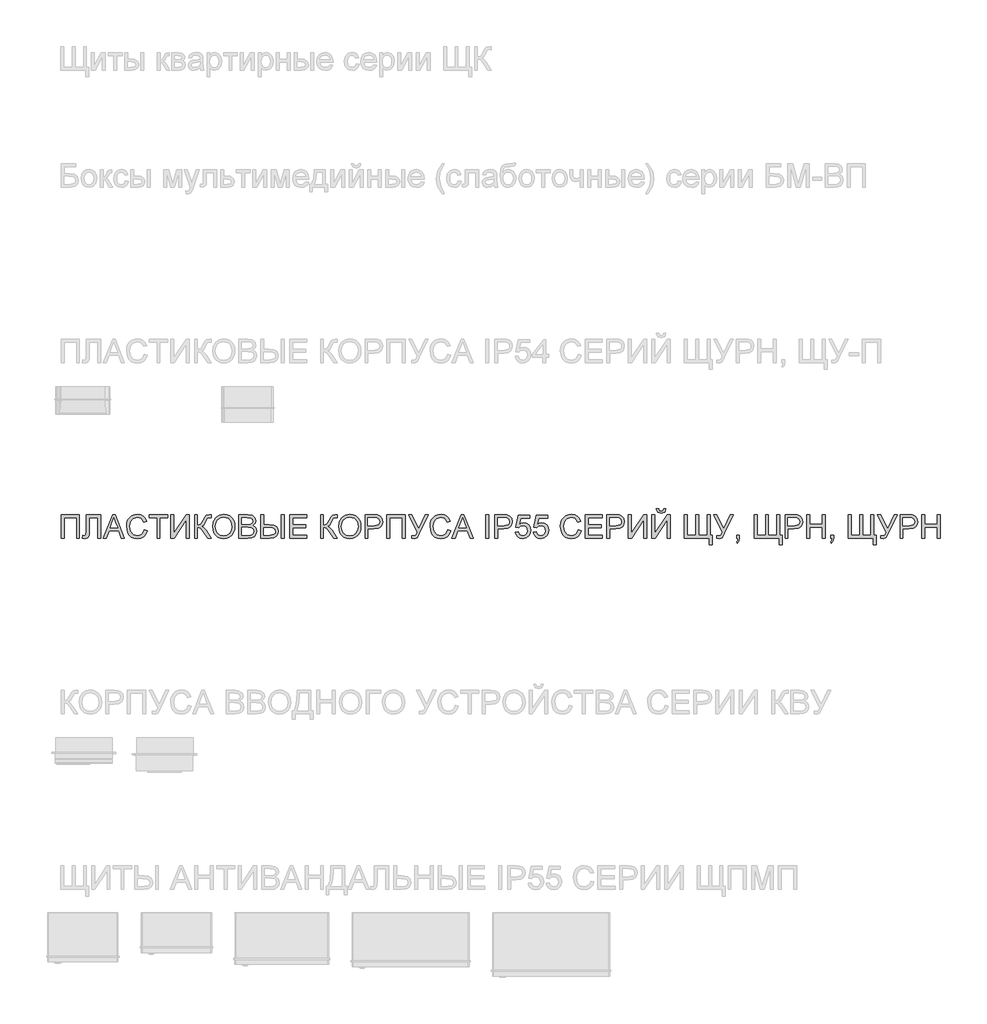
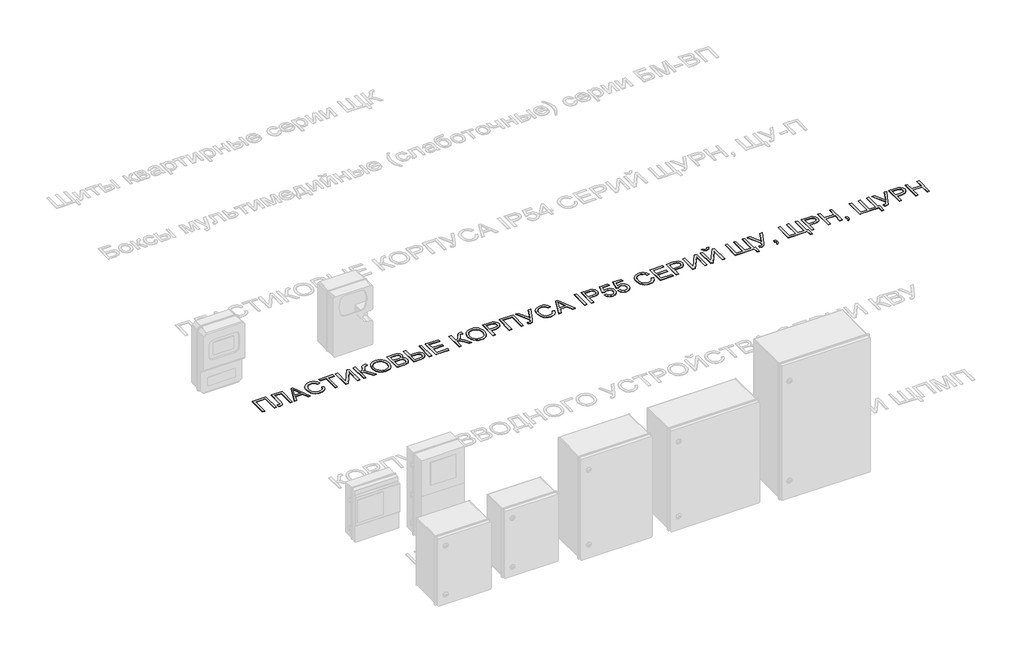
# One storey, part 16 of 25: 1 proxy.
"""IFC4 building model written with IfcOpenShell, lengths in millimetres."""

import ifcopenshell
import ifcopenshell.guid

model = None  # the IFC model being written
_history = None  # IfcOwnerHistory: only IFC2X3 demands one
_inside = {}  # id of a spatial element -> (the spatial element, [elements in it])
_under = {}  # id of a project, library or spatial element -> (it, [spatial elements below it])
_declared = {}  # id of a project -> (the project, [libraries it declares])
_typed = {}  # id of a type object -> (the type object, [elements of that type])
_made_of = {}  # id of a material, layer set ... -> (it, [elements and type objects made of it])


def new_model(schema):
    """Start an empty IFC model of exactly this schema.

    Asked for "IFC4X3", IfcOpenShell would pick the latest addendum, in which some entities
    have other attributes; the version numbers below select the first issue.
    IFC2X3 requires an IfcOwnerHistory on every rooted entity: one is made here for all.
    """
    global model, _history
    if schema == "IFC4X3":
        model = ifcopenshell.file(schema_version=(4, 3, 0, 0))
    else:
        model = ifcopenshell.file(schema=schema)
    _inside.clear()
    _under.clear()
    _declared.clear()
    _typed.clear()
    _made_of.clear()
    _history = None
    if model.schema == "IFC2X3":
        org = make("IfcOrganization", Name="unknown")
        user = make(
            "IfcPersonAndOrganization",
            ThePerson=make("IfcPerson", FamilyName="unknown"),
            TheOrganization=org,
        )
        app = make(
            "IfcApplication",
            ApplicationDeveloper=org,
            Version="unknown",
            ApplicationFullName="unknown",
            ApplicationIdentifier="unknown",
        )
        _history = make(
            "IfcOwnerHistory",
            OwningUser=user,
            OwningApplication=app,
            ChangeAction="ADDED",
            CreationDate=0,
        )
    return model


def make(cls, **values):
    """One entity of the class cls with the attributes given. An attribute that is None is left unset."""
    return model.create_entity(
        cls, **{name: value for name, value in values.items() if value is not None}
    )


def rooted(cls, **values):
    """An entity with a GlobalId (a new one), such as an element, a storey or a relation."""
    return make(cls, GlobalId=ifcopenshell.guid.new(), OwnerHistory=_history, **values)


def si_unit(unit_type, name, prefix=None):
    """IfcSIUnit, for example si_unit("LENGTHUNIT", "METRE", prefix="MILLI")."""
    return make("IfcSIUnit", UnitType=unit_type, Prefix=prefix, Name=name)


def assignment(units):
    """IfcUnitAssignment: the units of a project."""
    return None if units is None else make("IfcUnitAssignment", Units=units)


def point(xyz):
    """IfcCartesianPoint."""
    return None if xyz is None else make("IfcCartesianPoint", Coordinates=xyz)


def direction(xyz):
    """IfcDirection."""
    return None if xyz is None else make("IfcDirection", DirectionRatios=xyz)


def frame(location, z_axis=None, x_axis=None):
    """IfcAxis2Placement3D, a coordinate frame: its origin and axes. An axis left out is left unset."""
    return make(
        "IfcAxis2Placement3D",
        Location=point(location),
        Axis=direction(z_axis),
        RefDirection=direction(x_axis),
    )


def origin():
    """The frame at (0, 0, 0) with its axes left unset."""
    return frame((0.0, 0.0, 0.0))


def place(relative_to, where):
    """IfcLocalPlacement: puts the frame where relative to a parent placement (None: the world)."""
    return make(
        "IfcLocalPlacement", PlacementRelTo=relative_to, RelativePlacement=where
    )


def context(
    kind, dimensions, precision=None, world=None, true_north=None, identifier=None
):
    """IfcGeometricRepresentationContext, for example the 3D "Model" context."""
    return make(
        "IfcGeometricRepresentationContext",
        ContextIdentifier=identifier,
        ContextType=kind,
        CoordinateSpaceDimension=dimensions,
        Precision=precision,
        WorldCoordinateSystem=world,
        TrueNorth=true_north,
    )


def project(units=None, contexts=None):
    """IfcProject with its units and contexts."""
    return rooted(
        "IfcProject",
        Name="project",
        RepresentationContexts=contexts,
        UnitsInContext=assignment(units),
    )


def spatial(cls, under=None, at=None, **own):
    """A site, building, storey or space (cls), placed at a placement, below another one or the project."""
    s = rooted(cls, ObjectPlacement=at, **own)
    if under is not None:
        _under.setdefault(under.id(), (under, []))[1].append(s)
    return s


def polyline(points):
    """IfcPolyline through the points."""
    return make("IfcPolyline", Points=[point(p) for p in points])


def outline(outer, holes=None, kind="AREA"):
    """IfcArbitraryClosedProfileDef: a profile drawn as a closed curve; with holes, ...WithVoids."""
    if holes is None:
        return make("IfcArbitraryClosedProfileDef", ProfileType=kind, OuterCurve=outer)
    return make(
        "IfcArbitraryProfileDefWithVoids",
        ProfileType=kind,
        OuterCurve=outer,
        InnerCurves=holes,
    )


def extrude(swept, where, along, depth):
    """IfcExtrudedAreaSolid: the profile swept, set in the frame where, extruded along a direction by depth."""
    return make(
        "IfcExtrudedAreaSolid",
        SweptArea=swept,
        Position=where,
        ExtrudedDirection=direction(along),
        Depth=depth,
    )


def shape(context_of_items, identifier, shape_type, items):
    """IfcShapeRepresentation: the items that make up one representation, for example the "Body"."""
    return make(
        "IfcShapeRepresentation",
        ContextOfItems=context_of_items,
        RepresentationIdentifier=identifier,
        RepresentationType=shape_type,
        Items=items,
    )


def made_of(thing, what):
    """Note that an element or type object is made of a material, layer set ...; save() writes the relation."""
    if what is not None:
        _made_of.setdefault(what.id(), (what, []))[1].append(thing)
    return thing


def element(
    cls,
    number,
    at=None,
    inside=None,
    cuts=None,
    type_object=None,
    material=None,
    context=None,
    identifier="Body",
    shape_type=None,
    held_by="IfcProductDefinitionShape",
    body=None,
    shapes=None,
    **own,
):
    """One element of the class cls, such as IfcWall. Its Tag is "e" and its number.

    at: its placement. inside: the storey or other place that contains it. cuts: it is an
    opening in that element (IfcRelVoidsElement). A single representation is given by context,
    identifier, shape_type and body (its items); several are given by shapes. held_by: the class
    of the entity that holds the representations. save() writes the other relations.
    """
    e = rooted(cls, Tag="e%d" % number, ObjectPlacement=at, **own)
    if body is not None:
        shapes = [shape(context, identifier, shape_type, body)]
    if shapes is not None:
        e.Representation = make(held_by, Representations=shapes)
    if inside is not None:
        _inside.setdefault(inside.id(), (inside, []))[1].append(e)
    if cuts is not None:
        rooted(
            "IfcRelVoidsElement", RelatingBuildingElement=cuts, RelatedOpeningElement=e
        )
    if type_object is not None:
        _typed.setdefault(type_object.id(), (type_object, []))[1].append(e)
    return made_of(e, material)


def aggregate(whole, parts):
    """IfcRelAggregates: a whole, such as a stair, and the parts it consists of."""
    return rooted("IfcRelAggregates", RelatingObject=whole, RelatedObjects=parts)


def save(model, path):
    """Write the relations noted so far, then the file.

    IfcRelAggregates (storeys below a building ...), IfcRelContainedInSpatialStructure (elements
    in a storey), IfcRelDefinesByType, IfcRelAssociatesMaterial and IfcRelDeclares: one each for
    every whole, place, type object, material and project.
    """
    for whole, parts in _under.values():
        aggregate(whole, parts)
    for where, things in _inside.values():
        rooted(
            "IfcRelContainedInSpatialStructure",
            RelatedElements=things,
            RelatingStructure=where,
        )
    for kind, things in _typed.values():
        rooted("IfcRelDefinesByType", RelatedObjects=things, RelatingType=kind)
    for what, things in _made_of.values():
        rooted("IfcRelAssociatesMaterial", RelatedObjects=things, RelatingMaterial=what)
    for by, libraries in _declared.values():
        rooted("IfcRelDeclares", RelatingContext=by, RelatedDefinitions=libraries)
    model.write(path)


model = new_model("IFC4")

# Units and contexts
model_context = context("Model", 3, world=origin())
ifc_project = project(units=[si_unit("LENGTHUNIT", "METRE", prefix="MILLI")], contexts=[model_context])

# Site, building, storey
site = spatial("IfcSite", under=ifc_project)
building = spatial("IfcBuilding", under=site)
storey = spatial("IfcBuildingStorey", under=building, Name="Этаж 01", Elevation=0.0)

# Proxy
placement = place(None, origin())
element("IfcBuildingElementProxy", 1, Name="Надпись на модели 1", ObjectType="Надпись на модели 1", at=placement, inside=storey, context=model_context, shape_type="SweptSolid", body=[
    extrude(outline(polyline([(-19038.1210387, 12136.6915941), (-18959.6395464, 12136.6915941), (-18959.6395464, 12036.235284), (-18972.1965852, 12036.235284), (-18972.1965852, 12124.1345554), (-19025.564, 12124.1345554), (-19025.564, 12036.235284), (-19038.1210387, 12036.235284), (-19038.1210387, 12136.6915941)])), frame((0.0, 0.0, 40.0), z_axis=(0.0, 0.0, 1.0), x_axis=(1.0, 0.0, 0.0)), (0.0, 0.0, 1.0), 2.0),
    extrude(outline(polyline([(-18929.8165793, 12136.6915941), (-18868.6010154, 12136.6915941), (-18868.6010154, 12036.235284), (-18881.1580541, 12036.235284), (-18881.1580541, 12124.1345554), (-18917.2595406, 12124.1345554), (-18917.2595406, 12072.8763307), (-18918.7188058, 12050.0063333), (-18924.8379097, 12038.7000934), (-18936.6591845, 12034.6656541), (-18947.0825077, 12036.235284), (-18945.5128778, 12048.7923228), (-18939.5041386, 12047.2226929), (-18932.2323378, 12050.5949445), (-18929.8165793, 12066.475184), (-18929.8165793, 12136.6915941)])), frame((0.0, 0.0, 40.0), z_axis=(0.0, 0.0, 1.0), x_axis=(1.0, 0.0, 0.0)), (0.0, 0.0, 1.0), 2.0),
    extrude(outline(polyline([(-18858.324845, 12036.235284), (-18818.2257075, 12136.6915941), (-18807.5326042, 12136.6915941), (-18767.4334667, 12036.235284), (-18780.701744, 12036.235284), (-18792.2041877, 12067.6278809), (-18833.5786494, 12067.6278809), (-18845.0565677, 12036.235284), (-18858.324845, 12036.235284)]), holes=[polyline([(-18828.9678617, 12080.1849197), (-18796.7904499, 12080.1849197), (-18805.840347, 12104.8820643), (-18812.8791558, 12124.1345554), (-18819.1331497, 12107.0403053), (-18828.9678617, 12080.1849197)])]), frame((0.0, 0.0, 40.0), z_axis=(0.0, 0.0, 1.0), x_axis=(1.0, 0.0, 0.0)), (0.0, 0.0, 1.0), 2.0),
    extrude(outline(polyline([(-18683.3846935, 12071.944363), (-18670.8276547, 12068.7070014), (-18676.6217962, 12054.0744951), (-18685.7146128, 12043.3844574), (-18697.6585149, 12036.845355), (-18712.0059127, 12034.6656541), (-18726.5709741, 12036.3149918), (-18738.1377971, 12041.2630046), (-18747.0037532, 12049.3380144), (-18753.4662136, 12060.3683429), (-18758.7269261, 12087.2237285), (-18757.2400697, 12101.8715633), (-18752.7795005, 12114.5205726), (-18745.5782105, 12124.7691518), (-18735.8691915, 12132.2156965), (-18724.354485, 12136.7498421), (-18711.7361326, 12138.261224), (-18697.9681489, 12136.305318), (-18686.5852669, 12130.4376002), (-18677.9431057, 12121.0198211), (-18672.3972846, 12108.4137314), (-18684.9543234, 12105.4216246), (-18695.2550192, 12120.8604056), (-18712.2266419, 12125.7041852), (-18731.8715405, 12120.3331081), (-18742.969314, 12105.9121339), (-18746.1698874, 12087.248254), (-18742.3807028, 12065.6167927), (-18730.5839535, 12051.7966924), (-18713.2567115, 12047.2226929), (-18702.7751403, 12048.78006), (-18694.0410086, 12053.4521614), (-18687.4467239, 12061.189946), (-18683.3846935, 12071.944363)])), frame((0.0, 0.0, 40.0), z_axis=(0.0, 0.0, 1.0), x_axis=(1.0, 0.0, 0.0)), (0.0, 0.0, 1.0), 2.0),
    extrude(outline(polyline([(-18628.4476489, 12036.235284), (-18628.4476489, 12124.1345554), (-18661.4098757, 12124.1345554), (-18661.4098757, 12136.6915941), (-18582.9283834, 12136.6915941), (-18582.9283834, 12124.1345554), (-18615.8906101, 12124.1345554), (-18615.8906101, 12036.235284), (-18628.4476489, 12036.235284)])), frame((0.0, 0.0, 40.0), z_axis=(0.0, 0.0, 1.0), x_axis=(1.0, 0.0, 0.0)), (0.0, 0.0, 1.0), 2.0),
    extrude(outline(polyline([(-18568.8017147, 12136.6915941), (-18556.244676, 12136.6915941), (-18556.244676, 12057.1309813), (-18503.6620761, 12136.6915941), (-18490.3202224, 12136.6915941), (-18490.3202224, 12036.235284), (-18502.8772612, 12036.235284), (-18502.8772612, 12115.5751676), (-18555.3372337, 12036.235284), (-18568.8017147, 12036.235284), (-18568.8017147, 12136.6915941)])), frame((0.0, 0.0, 40.0), z_axis=(0.0, 0.0, 1.0), x_axis=(1.0, 0.0, 0.0)), (0.0, 0.0, 1.0), 2.0),
    extrude(outline(polyline([(-18468.3454046, 12136.6915941), (-18455.7883658, 12136.6915941), (-18455.7883658, 12092.7419585), (-18441.7475363, 12096.0651591), (-18431.9496125, 12112.8773663), (-18425.0211683, 12126.9181958), (-18417.1730191, 12133.8711655), (-18405.9526182, 12136.6915941), (-18397.7120615, 12136.5444413), (-18397.7120615, 12123.9874026), (-18400.4834392, 12124.060979), (-18403.2548169, 12124.1345554), (-18413.0650035, 12121.117923), (-18420.5207452, 12108.1930022), (-18429.4112268, 12092.4476529), (-18438.0809791, 12087.248254), (-18428.3872886, 12081.5706085), (-18418.828488, 12069.737071), (-18397.7120615, 12036.235284), (-18412.2801885, 12036.235284), (-18430.134728, 12064.5376722), (-18442.7040295, 12079.3142656), (-18455.7883658, 12083.3241794), (-18455.7883658, 12036.235284), (-18468.3454046, 12036.235284), (-18468.3454046, 12136.6915941)])), frame((0.0, 0.0, 40.0), z_axis=(0.0, 0.0, 1.0), x_axis=(1.0, 0.0, 0.0)), (0.0, 0.0, 1.0), 2.0),
    extrude(outline(polyline([(-18391.4335421, 12085.1390639), (-18388.085816, 12107.353005), (-18378.0426375, 12124.1590808), (-18362.7080897, 12134.7356882), (-18343.4862554, 12138.261224), (-18330.3099486, 12136.605755), (-18318.4948052, 12131.6393481), (-18308.6846187, 12123.7114911), (-18301.5231825, 12113.1716719), (-18297.1453868, 12100.528794), (-18295.6861215, 12086.2917608), (-18297.2220289, 12071.8646552), (-18301.8297508, 12059.0439677), (-18309.2548358, 12048.4857544), (-18319.242832, 12040.8460717), (-18330.9568078, 12036.2107585), (-18343.5598318, 12034.6656541), (-18356.9384737, 12036.3732397), (-18368.8210622, 12041.4959965), (-18378.6067232, 12049.5710063), (-18385.694583, 12060.1353509), (-18391.4335421, 12085.1390639)]), holes=[polyline([(-18378.8765034, 12085.0164366), (-18376.3657088, 12069.301744), (-18368.8333249, 12057.327185), (-18357.5117565, 12049.7488159), (-18343.6334082, 12047.2226929), (-18329.5527249, 12049.7733414), (-18318.2127624, 12057.4252869), (-18310.7355608, 12069.7677279), (-18308.2431603, 12086.3898627), (-18312.5105914, 12107.1138817), (-18324.9817911, 12120.8358802), (-18343.412679, 12125.7041852), (-18356.9200796, 12123.3589375), (-18368.4041292, 12116.3231943), (-18376.2584098, 12103.8060095), (-18378.8765034, 12085.0164366)])]), frame((0.0, 0.0, 40.0), z_axis=(0.0, 0.0, 1.0), x_axis=(1.0, 0.0, 0.0)), (0.0, 0.0, 1.0), 2.0),
    extrude(outline(polyline([(-18278.4201932, 12036.235284), (-18278.4201932, 12136.6915941), (-18240.0868893, 12136.6915941), (-18221.3126448, 12133.7362754), (-18210.227134, 12124.6495902), (-18206.2172203, 12111.7982458), (-18209.5894719, 12100.0628102), (-18219.7798032, 12091.1723286), (-18207.4067054, 12081.8036005), (-18203.0779606, 12066.1808784), (-18206.0332793, 12052.6796092), (-18213.354131, 12043.0656264), (-18224.2802263, 12037.9643294), (-18240.3811949, 12036.235284), (-18278.4201932, 12036.235284)]), holes=[polyline([(-18265.8631545, 12095.8812181), (-18242.9318434, 12095.8812181), (-18229.5409388, 12096.9603387), (-18221.4843231, 12101.6079145), (-18218.7742591, 12109.7871576), (-18221.3003821, 12117.9786633), (-18228.5353947, 12122.8224429), (-18244.6731515, 12124.1345554), (-18265.8631545, 12124.1345554), (-18265.8631545, 12095.8812181)]), polyline([(-18265.8631545, 12048.7923228), (-18240.1114148, 12048.7923228), (-18230.7917376, 12049.2828321), (-18222.9068001, 12052.0174216), (-18217.6828758, 12057.5969652), (-18215.6349994, 12066.0582511), (-18218.0384951, 12075.8193867), (-18225.8253306, 12081.6441849), (-18241.3376881, 12083.3241794), (-18265.8631545, 12083.3241794), (-18265.8631545, 12048.7923228)])]), frame((0.0, 0.0, 40.0), z_axis=(0.0, 0.0, 1.0), x_axis=(1.0, 0.0, 0.0)), (0.0, 0.0, 1.0), 2.0),
    extrude(outline(polyline([(-18097.9127609, 12136.6915941), (-18085.3557222, 12136.6915941), (-18085.3557222, 12036.235284), (-18097.9127609, 12036.235284), (-18097.9127609, 12136.6915941)])), frame((0.0, 0.0, 40.0), z_axis=(0.0, 0.0, 1.0), x_axis=(1.0, 0.0, 0.0)), (0.0, 0.0, 1.0), 2.0),
    extrude(outline(polyline([(-18185.8120323, 12136.6915941), (-18173.2549935, 12136.6915941), (-18173.2549935, 12094.3115883), (-18149.1219346, 12094.3115883), (-18129.4831675, 12092.1165591), (-18117.9500669, 12085.5314713), (-18112.3398665, 12076.1627432), (-18110.4697997, 12065.6167927), (-18112.4471654, 12054.6017926), (-18118.3792626, 12045.0521891), (-18129.6824369, 12038.4395103), (-18147.773034, 12036.235284), (-18185.8120323, 12036.235284), (-18185.8120323, 12136.6915941)]), holes=[polyline([(-18173.2549935, 12048.7923228), (-18147.8956613, 12048.7923228), (-18128.9252131, 12052.777711), (-18124.5014321, 12057.9617815), (-18123.0268385, 12065.5432163), (-18126.5952938, 12075.5250811), (-18135.8168692, 12080.6509035), (-18154.6892155, 12081.7545495), (-18173.2549935, 12081.7545495), (-18173.2549935, 12048.7923228)])]), frame((0.0, 0.0, 40.0), z_axis=(0.0, 0.0, 1.0), x_axis=(1.0, 0.0, 0.0)), (0.0, 0.0, 1.0), 2.0),
    extrude(outline(polyline([(-18061.8112745, 12036.235284), (-18061.8112745, 12136.6915941), (-17989.6083015, 12136.6915941), (-17989.6083015, 12124.1345554), (-18049.2542357, 12124.1345554), (-18049.2542357, 12094.3115883), (-17992.7475612, 12094.3115883), (-17992.7475612, 12081.7545495), (-18049.2542357, 12081.7545495), (-18049.2542357, 12048.7923228), (-17988.0386717, 12048.7923228), (-17988.0386717, 12036.235284), (-18061.8112745, 12036.235284)])), frame((0.0, 0.0, 40.0), z_axis=(0.0, 0.0, 1.0), x_axis=(1.0, 0.0, 0.0)), (0.0, 0.0, 1.0), 2.0),
    extrude(outline(polyline([(-17929.9623674, 12136.6915941), (-17917.4053286, 12136.6915941), (-17917.4053286, 12092.7419585), (-17903.3644991, 12096.0651591), (-17893.5665753, 12112.8773663), (-17886.6381311, 12126.9181958), (-17878.7899819, 12133.8711655), (-17867.569581, 12136.6915941), (-17859.3290243, 12136.5444413), (-17859.3290243, 12123.9874026), (-17862.100402, 12124.060979), (-17864.8717797, 12124.1345554), (-17874.6819662, 12121.117923), (-17882.137708, 12108.1930022), (-17891.0281896, 12092.4476529), (-17899.6979419, 12087.248254), (-17890.0042513, 12081.5706085), (-17880.4454508, 12069.737071), (-17859.3290243, 12036.235284), (-17873.8971513, 12036.235284), (-17891.7516908, 12064.5376722), (-17904.3209923, 12079.3142656), (-17917.4053286, 12083.3241794), (-17917.4053286, 12036.235284), (-17929.9623674, 12036.235284), (-17929.9623674, 12136.6915941)])), frame((0.0, 0.0, 40.0), z_axis=(0.0, 0.0, 1.0), x_axis=(1.0, 0.0, 0.0)), (0.0, 0.0, 1.0), 2.0),
    extrude(outline(polyline([(-17853.0505049, 12085.1390639), (-17849.7027788, 12107.353005), (-17839.6596003, 12124.1590808), (-17824.3250525, 12134.7356882), (-17805.1032182, 12138.261224), (-17791.9269114, 12136.605755), (-17780.111768, 12131.6393481), (-17770.3015815, 12123.7114911), (-17763.1401453, 12113.1716719), (-17758.7623496, 12100.528794), (-17757.3030843, 12086.2917608), (-17758.8389917, 12071.8646552), (-17763.4467136, 12059.0439677), (-17770.8717986, 12048.4857544), (-17780.8597947, 12040.8460717), (-17792.5737706, 12036.2107585), (-17805.1767946, 12034.6656541), (-17818.5554365, 12036.3732397), (-17830.438025, 12041.4959965), (-17840.223686, 12049.5710063), (-17847.3115458, 12060.1353509), (-17853.0505049, 12085.1390639)]), holes=[polyline([(-17840.4934662, 12085.0164366), (-17837.9826715, 12069.301744), (-17830.4502877, 12057.327185), (-17819.1287193, 12049.7488159), (-17805.250371, 12047.2226929), (-17791.1696877, 12049.7733414), (-17779.8297252, 12057.4252869), (-17772.3525236, 12069.7677279), (-17769.8601231, 12086.3898627), (-17774.1275542, 12107.1138817), (-17786.5987539, 12120.8358802), (-17805.0296418, 12125.7041852), (-17818.5370424, 12123.3589375), (-17830.021092, 12116.3231943), (-17837.8753726, 12103.8060095), (-17840.4934662, 12085.0164366)])]), frame((0.0, 0.0, 40.0), z_axis=(0.0, 0.0, 1.0), x_axis=(1.0, 0.0, 0.0)), (0.0, 0.0, 1.0), 2.0),
    extrude(outline(polyline([(-17740.037156, 12036.235284), (-17740.037156, 12136.6915941), (-17702.8074981, 12136.6915941), (-17687.7979127, 12135.735101), (-17675.5964932, 12131.0384742), (-17667.6870303, 12121.3263895), (-17664.6949234, 12107.6289165), (-17666.7152087, 12095.7892476), (-17672.7760646, 12085.9238788), (-17684.1098957, 12079.2652147), (-17701.9491068, 12077.04566), (-17727.4801172, 12077.04566), (-17727.4801172, 12036.235284), (-17740.037156, 12036.235284)]), holes=[polyline([(-17727.4801172, 12089.6026988), (-17701.2133428, 12089.6026988), (-17682.7211412, 12094.2134864), (-17678.6192569, 12099.7623732), (-17677.2519622, 12107.1874581), (-17680.477061, 12117.5862559), (-17688.9506096, 12123.2761641), (-17701.5076484, 12124.1345554), (-17727.4801172, 12124.1345554), (-17727.4801172, 12089.6026988)])]), frame((0.0, 0.0, 40.0), z_axis=(0.0, 0.0, 1.0), x_axis=(1.0, 0.0, 0.0)), (0.0, 0.0, 1.0), 2.0),
    extrude(outline(polyline([(-17647.4289951, 12136.6915941), (-17568.9475028, 12136.6915941), (-17568.9475028, 12036.235284), (-17581.5045416, 12036.235284), (-17581.5045416, 12124.1345554), (-17634.8719563, 12124.1345554), (-17634.8719563, 12036.235284), (-17647.4289951, 12036.235284), (-17647.4289951, 12136.6915941)])), frame((0.0, 0.0, 40.0), z_axis=(0.0, 0.0, 1.0), x_axis=(1.0, 0.0, 0.0)), (0.0, 0.0, 1.0), 2.0),
    extrude(outline(polyline([(-17554.0360193, 12136.6915941), (-17540.1300798, 12136.6915941), (-17510.0863836, 12077.1928128), (-17483.0593196, 12136.6915941), (-17469.2760076, 12136.6915941), (-17507.4131077, 12058.430831), (-17517.78738, 12039.2028654), (-17529.3879256, 12034.6656541), (-17540.6941656, 12036.235284), (-17540.6941656, 12047.2226929), (-17530.8104026, 12047.2226929), (-17523.4772882, 12050.0185961), (-17516.683734, 12062.7473131), (-17554.0360193, 12136.6915941)])), frame((0.0, 0.0, 40.0), z_axis=(0.0, 0.0, 1.0), x_axis=(1.0, 0.0, 0.0)), (0.0, 0.0, 1.0), 2.0),
    extrude(outline(polyline([(-17386.8704406, 12071.944363), (-17374.3134019, 12068.7070014), (-17380.1075433, 12054.0744951), (-17389.2003599, 12043.3844574), (-17401.1442621, 12036.845355), (-17415.4916599, 12034.6656541), (-17430.0567212, 12036.3149918), (-17441.6235443, 12041.2630046), (-17450.4895003, 12049.3380144), (-17456.9519607, 12060.3683429), (-17462.2126733, 12087.2237285), (-17460.7258169, 12101.8715633), (-17456.2652477, 12114.5205726), (-17449.0639576, 12124.7691518), (-17439.3549386, 12132.2156965), (-17427.8402322, 12136.7498421), (-17415.2218797, 12138.261224), (-17401.4538961, 12136.305318), (-17390.071014, 12130.4376002), (-17381.4288528, 12121.0198211), (-17375.8830317, 12108.4137314), (-17388.4400705, 12105.4216246), (-17398.7407664, 12120.8604056), (-17415.7123891, 12125.7041852), (-17435.3572876, 12120.3331081), (-17446.4550611, 12105.9121339), (-17449.6556345, 12087.248254), (-17445.8664499, 12065.6167927), (-17434.0697006, 12051.7966924), (-17416.7424587, 12047.2226929), (-17406.2608875, 12048.78006), (-17397.5267558, 12053.4521614), (-17390.932471, 12061.189946), (-17386.8704406, 12071.944363)])), frame((0.0, 0.0, 40.0), z_axis=(0.0, 0.0, 1.0), x_axis=(1.0, 0.0, 0.0)), (0.0, 0.0, 1.0), 2.0),
    extrude(outline(polyline([(-17368.746121, 12036.235284), (-17328.6469835, 12136.6915941), (-17317.9538802, 12136.6915941), (-17277.8547427, 12036.235284), (-17291.12302, 12036.235284), (-17302.6254637, 12067.6278809), (-17343.9999255, 12067.6278809), (-17355.4778437, 12036.235284), (-17368.746121, 12036.235284)]), holes=[polyline([(-17339.3891378, 12080.1849197), (-17307.211726, 12080.1849197), (-17316.261623, 12104.8820643), (-17323.3004319, 12124.1345554), (-17329.5544258, 12107.0403053), (-17339.3891378, 12080.1849197)])]), frame((0.0, 0.0, 40.0), z_axis=(0.0, 0.0, 1.0), x_axis=(1.0, 0.0, 0.0)), (0.0, 0.0, 1.0), 2.0),
    extrude(outline(polyline([(-17223.6289367, 12036.235284), (-17223.6289367, 12136.6915941), (-17211.0718979, 12136.6915941), (-17211.0718979, 12036.235284), (-17223.6289367, 12036.235284)])), frame((0.0, 0.0, 40.0), z_axis=(0.0, 0.0, 1.0), x_axis=(1.0, 0.0, 0.0)), (0.0, 0.0, 1.0), 2.0),
    extrude(outline(polyline([(-17185.9578203, 12036.235284), (-17185.9578203, 12136.6915941), (-17148.7281624, 12136.6915941), (-17133.718577, 12135.735101), (-17121.5171575, 12131.0384742), (-17113.6076946, 12121.3263895), (-17110.6155877, 12107.6289165), (-17112.635873, 12095.7892476), (-17118.6967289, 12085.9238788), (-17130.03056, 12079.2652147), (-17147.8697711, 12077.04566), (-17173.4007816, 12077.04566), (-17173.4007816, 12036.235284), (-17185.9578203, 12036.235284)]), holes=[polyline([(-17173.4007816, 12089.6026988), (-17147.1340071, 12089.6026988), (-17128.6418055, 12094.2134864), (-17124.5399212, 12099.7623732), (-17123.1726265, 12107.1874581), (-17126.3977253, 12117.5862559), (-17134.8712739, 12123.2761641), (-17147.4283127, 12124.1345554), (-17173.4007816, 12124.1345554), (-17173.4007816, 12089.6026988)])]), frame((0.0, 0.0, 40.0), z_axis=(0.0, 0.0, 1.0), x_axis=(1.0, 0.0, 0.0)), (0.0, 0.0, 1.0), 2.0),
    extrude(outline(polyline([(-17098.058549, 12062.9189914), (-17085.5015102, 12064.4886212), (-17079.1739399, 12051.5514377), (-17066.0528154, 12047.2226929), (-17057.0519692, 12048.7279434), (-17050.307466, 12053.2436949), (-17046.0952171, 12060.2487812), (-17044.6911342, 12069.2220362), (-17049.9518467, 12084.1335198), (-17056.5583942, 12088.235404), (-17065.8566117, 12089.6026988), (-17076.8808088, 12087.4199323), (-17083.9318803, 12081.7545495), (-17096.4889191, 12083.3241794), (-17085.5015102, 12135.1219643), (-17036.842985, 12135.1219643), (-17036.842985, 12122.5649255), (-17075.3479671, 12122.5649255), (-17080.7190443, 12094.9001995), (-17071.7488549, 12100.344853), (-17062.34947, 12102.1597375), (-17050.6171, 12099.909526), (-17040.8774242, 12093.1588914), (-17034.3199276, 12082.8704582), (-17032.1340954, 12070.0068512), (-17034.1022641, 12057.4498124), (-17040.0067701, 12046.7076581), (-17051.3130101, 12037.6761551), (-17066.1018663, 12034.6656541), (-17078.4351102, 12036.6001003), (-17088.2606252, 12042.4034388), (-17094.9959314, 12051.4012192), (-17098.058549, 12062.9189914)])), frame((0.0, 0.0, 40.0), z_axis=(0.0, 0.0, 1.0), x_axis=(1.0, 0.0, 0.0)), (0.0, 0.0, 1.0), 2.0),
    extrude(outline(polyline([(-17021.1466865, 12062.9189914), (-17008.5896477, 12064.4886212), (-17002.2620774, 12051.5514377), (-16989.1409529, 12047.2226929), (-16980.1401068, 12048.7279434), (-16973.3956035, 12053.2436949), (-16969.1833547, 12060.2487812), (-16967.7792717, 12069.2220362), (-16973.0399843, 12084.1335198), (-16979.6465318, 12088.235404), (-16988.9447492, 12089.6026988), (-16999.9689463, 12087.4199323), (-17007.0200179, 12081.7545495), (-17019.5770567, 12083.3241794), (-17008.5896477, 12135.1219643), (-16959.9311225, 12135.1219643), (-16959.9311225, 12122.5649255), (-16998.4361047, 12122.5649255), (-17003.8071818, 12094.9001995), (-16994.8369925, 12100.344853), (-16985.4376075, 12102.1597375), (-16973.7052375, 12099.909526), (-16963.9655617, 12093.1588914), (-16957.4080652, 12082.8704582), (-16955.222233, 12070.0068512), (-16957.1904016, 12057.4498124), (-16963.0949077, 12046.7076581), (-16974.4011477, 12037.6761551), (-16989.1900039, 12034.6656541), (-17001.5232477, 12036.6001003), (-17011.3487627, 12042.4034388), (-17018.0840689, 12051.4012192), (-17021.1466865, 12062.9189914)])), frame((0.0, 0.0, 40.0), z_axis=(0.0, 0.0, 1.0), x_axis=(1.0, 0.0, 0.0)), (0.0, 0.0, 1.0), 2.0),
    extrude(outline(polyline([(-16829.6518453, 12071.944363), (-16817.0948065, 12068.7070014), (-16822.8889479, 12054.0744951), (-16831.9817646, 12043.3844574), (-16843.9256667, 12036.845355), (-16858.2730645, 12034.6656541), (-16872.8381258, 12036.3149918), (-16884.4049489, 12041.2630046), (-16893.270905, 12049.3380144), (-16899.7333654, 12060.3683429), (-16904.9940779, 12087.2237285), (-16903.5072215, 12101.8715633), (-16899.0466523, 12114.5205726), (-16891.8453623, 12124.7691518), (-16882.1363433, 12132.2156965), (-16870.6216368, 12136.7498421), (-16858.0032844, 12138.261224), (-16844.2353007, 12136.305318), (-16832.8524186, 12130.4376002), (-16824.2102574, 12121.0198211), (-16818.6644364, 12108.4137314), (-16831.2214751, 12105.4216246), (-16841.522171, 12120.8604056), (-16858.4937937, 12125.7041852), (-16878.1386922, 12120.3331081), (-16889.2364658, 12105.9121339), (-16892.4370391, 12087.248254), (-16888.6478546, 12065.6167927), (-16876.8511053, 12051.7966924), (-16859.5238633, 12047.2226929), (-16849.0422921, 12048.78006), (-16840.3081604, 12053.4521614), (-16833.7138756, 12061.189946), (-16829.6518453, 12071.944363)])), frame((0.0, 0.0, 40.0), z_axis=(0.0, 0.0, 1.0), x_axis=(1.0, 0.0, 0.0)), (0.0, 0.0, 1.0), 2.0),
    extrude(outline(polyline([(-16799.8288782, 12036.235284), (-16799.8288782, 12136.6915941), (-16727.6259053, 12136.6915941), (-16727.6259053, 12124.1345554), (-16787.2718394, 12124.1345554), (-16787.2718394, 12094.3115883), (-16730.765165, 12094.3115883), (-16730.765165, 12081.7545495), (-16787.2718394, 12081.7545495), (-16787.2718394, 12048.7923228), (-16726.0562754, 12048.7923228), (-16726.0562754, 12036.235284), (-16799.8288782, 12036.235284)])), frame((0.0, 0.0, 40.0), z_axis=(0.0, 0.0, 1.0), x_axis=(1.0, 0.0, 0.0)), (0.0, 0.0, 1.0), 2.0),
    extrude(outline(polyline([(-16707.2207173, 12036.235284), (-16707.2207173, 12136.6915941), (-16669.9910594, 12136.6915941), (-16654.981474, 12135.735101), (-16642.7800545, 12131.0384742), (-16634.8705916, 12121.3263895), (-16631.8784847, 12107.6289165), (-16633.89877, 12095.7892476), (-16639.9596258, 12085.9238788), (-16651.293457, 12079.2652147), (-16669.1326681, 12077.04566), (-16694.6636785, 12077.04566), (-16694.6636785, 12036.235284), (-16707.2207173, 12036.235284)]), holes=[polyline([(-16694.6636785, 12089.6026988), (-16668.3969041, 12089.6026988), (-16649.9047024, 12094.2134864), (-16645.8028182, 12099.7623732), (-16644.4355234, 12107.1874581), (-16647.6606223, 12117.5862559), (-16656.1341709, 12123.2761641), (-16668.6912097, 12124.1345554), (-16694.6636785, 12124.1345554), (-16694.6636785, 12089.6026988)])]), frame((0.0, 0.0, 40.0), z_axis=(0.0, 0.0, 1.0), x_axis=(1.0, 0.0, 0.0)), (0.0, 0.0, 1.0), 2.0),
    extrude(outline(polyline([(-16614.6125564, 12136.6915941), (-16602.0555176, 12136.6915941), (-16602.0555176, 12057.1309813), (-16549.4729178, 12136.6915941), (-16536.1310641, 12136.6915941), (-16536.1310641, 12036.235284), (-16548.6881028, 12036.235284), (-16548.6881028, 12115.5751676), (-16601.1480753, 12036.235284), (-16614.6125564, 12036.235284), (-16614.6125564, 12136.6915941)])), frame((0.0, 0.0, 40.0), z_axis=(0.0, 0.0, 1.0), x_axis=(1.0, 0.0, 0.0)), (0.0, 0.0, 1.0), 2.0),
    extrude(outline(polyline([(-16514.1562462, 12136.6915941), (-16501.5992075, 12136.6915941), (-16501.5992075, 12057.1309813), (-16449.0166076, 12136.6915941), (-16435.6747539, 12136.6915941), (-16435.6747539, 12036.235284), (-16448.2317927, 12036.235284), (-16448.2317927, 12115.5751676), (-16500.6917652, 12036.235284), (-16514.1562462, 12036.235284), (-16514.1562462, 12136.6915941)])), frame((0.0, 0.0, 40.0), z_axis=(0.0, 0.0, 1.0), x_axis=(1.0, 0.0, 0.0)), (0.0, 0.0, 1.0), 2.0),
    extrude(outline(polyline([(-16463.9280911, 12161.8056717), (-16454.5103121, 12161.8056717), (-16460.6048905, 12147.8384186), (-16474.1306851, 12142.9701135), (-16488.7723886, 12147.8016304), (-16495.3206881, 12161.8056717), (-16485.902909, 12161.8056717), (-16482.3712418, 12154.7300746), (-16475.2588566, 12152.3878926), (-16467.4597583, 12154.6564982), (-16463.9280911, 12161.8056717)])), frame((0.0, 0.0, 40.0), z_axis=(0.0, 0.0, 1.0), x_axis=(1.0, 0.0, 0.0)), (0.0, 0.0, 1.0), 2.0),
    extrude(outline(polyline([(-16376.0288198, 12136.6915941), (-16363.471781, 12136.6915941), (-16363.471781, 12048.7923228), (-16327.3702945, 12048.7923228), (-16327.3702945, 12136.6915941), (-16314.8132558, 12136.6915941), (-16314.8132558, 12048.7923228), (-16278.7117693, 12048.7923228), (-16278.7117693, 12136.6915941), (-16266.1547305, 12136.6915941), (-16266.1547305, 12048.7923228), (-16256.7369515, 12048.7923228), (-16256.7369515, 12007.9819468), (-16269.2939902, 12007.9819468), (-16269.2939902, 12036.235284), (-16376.0288198, 12036.235284), (-16376.0288198, 12136.6915941)])), frame((0.0, 0.0, 40.0), z_axis=(0.0, 0.0, 1.0), x_axis=(1.0, 0.0, 0.0)), (0.0, 0.0, 1.0), 2.0),
    extrude(outline(polyline([(-16251.243247, 12136.6915941), (-16237.3373076, 12136.6915941), (-16207.2936113, 12077.1928128), (-16180.2665474, 12136.6915941), (-16166.4832353, 12136.6915941), (-16204.6203355, 12058.430831), (-16214.9946077, 12039.2028654), (-16226.5951533, 12034.6656541), (-16237.9013933, 12036.235284), (-16237.9013933, 12047.2226929), (-16228.0176304, 12047.2226929), (-16220.6845159, 12050.0185961), (-16213.8909618, 12062.7473131), (-16251.243247, 12136.6915941)])), frame((0.0, 0.0, 40.0), z_axis=(0.0, 0.0, 1.0), x_axis=(1.0, 0.0, 0.0)), (0.0, 0.0, 1.0), 2.0),
    extrude(outline(polyline([(-16153.1413816, 12036.235284), (-16153.1413816, 12048.7923228), (-16140.5843428, 12048.7923228), (-16140.5843428, 12036.235284), (-16142.8406858, 12023.3962024), (-16150.0021219, 12015.830096), (-16153.1413816, 12020.5389855), (-16148.5305939, 12025.9591136), (-16146.8873877, 12036.235284), (-16153.1413816, 12036.235284)])), frame((0.0, 0.0, 40.0), z_axis=(0.0, 0.0, 1.0), x_axis=(1.0, 0.0, 0.0)), (0.0, 0.0, 1.0), 2.0),
    extrude(outline(polyline([(-16077.799149, 12136.6915941), (-16065.2421102, 12136.6915941), (-16065.2421102, 12048.7923228), (-16029.1406238, 12048.7923228), (-16029.1406238, 12136.6915941), (-16016.583585, 12136.6915941), (-16016.583585, 12048.7923228), (-15980.4820985, 12048.7923228), (-15980.4820985, 12136.6915941), (-15967.9250598, 12136.6915941), (-15967.9250598, 12048.7923228), (-15958.5072807, 12048.7923228), (-15958.5072807, 12007.9819468), (-15971.0643195, 12007.9819468), (-15971.0643195, 12036.235284), (-16077.799149, 12036.235284), (-16077.799149, 12136.6915941)])), frame((0.0, 0.0, 40.0), z_axis=(0.0, 0.0, 1.0), x_axis=(1.0, 0.0, 0.0)), (0.0, 0.0, 1.0), 2.0),
    extrude(outline(polyline([(-15945.9502419, 12036.235284), (-15945.9502419, 12136.6915941), (-15908.720584, 12136.6915941), (-15893.7109986, 12135.735101), (-15881.5095791, 12131.0384742), (-15873.6001162, 12121.3263895), (-15870.6080093, 12107.6289165), (-15872.6282946, 12095.7892476), (-15878.6891505, 12085.9238788), (-15890.0229816, 12079.2652147), (-15907.8621927, 12077.04566), (-15933.3932032, 12077.04566), (-15933.3932032, 12036.235284), (-15945.9502419, 12036.235284)]), holes=[polyline([(-15933.3932032, 12089.6026988), (-15907.1264287, 12089.6026988), (-15888.6342271, 12094.2134864), (-15884.5323428, 12099.7623732), (-15883.1650481, 12107.1874581), (-15886.3901469, 12117.5862559), (-15894.8636955, 12123.2761641), (-15907.4207343, 12124.1345554), (-15933.3932032, 12124.1345554), (-15933.3932032, 12089.6026988)])]), frame((0.0, 0.0, 40.0), z_axis=(0.0, 0.0, 1.0), x_axis=(1.0, 0.0, 0.0)), (0.0, 0.0, 1.0), 2.0),
    extrude(outline(polyline([(-15853.342081, 12036.235284), (-15853.342081, 12136.6915941), (-15840.7850422, 12136.6915941), (-15840.7850422, 12095.8812181), (-15787.4176275, 12095.8812181), (-15787.4176275, 12136.6915941), (-15774.8605887, 12136.6915941), (-15774.8605887, 12036.235284), (-15787.4176275, 12036.235284), (-15787.4176275, 12083.3241794), (-15840.7850422, 12083.3241794), (-15840.7850422, 12036.235284), (-15853.342081, 12036.235284)])), frame((0.0, 0.0, 40.0), z_axis=(0.0, 0.0, 1.0), x_axis=(1.0, 0.0, 0.0)), (0.0, 0.0, 1.0), 2.0),
    extrude(outline(polyline([(-15751.316141, 12036.235284), (-15751.316141, 12048.7923228), (-15738.7591023, 12048.7923228), (-15738.7591023, 12036.235284), (-15741.0154452, 12023.3962024), (-15748.1768813, 12015.830096), (-15751.316141, 12020.5389855), (-15746.7053533, 12025.9591136), (-15745.0621471, 12036.235284), (-15751.316141, 12036.235284)])), frame((0.0, 0.0, 40.0), z_axis=(0.0, 0.0, 1.0), x_axis=(1.0, 0.0, 0.0)), (0.0, 0.0, 1.0), 2.0),
    extrude(outline(polyline([(-15675.9739084, 12136.6915941), (-15663.4168696, 12136.6915941), (-15663.4168696, 12048.7923228), (-15627.3153832, 12048.7923228), (-15627.3153832, 12136.6915941), (-15614.7583444, 12136.6915941), (-15614.7583444, 12048.7923228), (-15578.656858, 12048.7923228), (-15578.656858, 12136.6915941), (-15566.0998192, 12136.6915941), (-15566.0998192, 12048.7923228), (-15556.6820401, 12048.7923228), (-15556.6820401, 12007.9819468), (-15569.2390789, 12007.9819468), (-15569.2390789, 12036.235284), (-15675.9739084, 12036.235284), (-15675.9739084, 12136.6915941)])), frame((0.0, 0.0, 40.0), z_axis=(0.0, 0.0, 1.0), x_axis=(1.0, 0.0, 0.0)), (0.0, 0.0, 1.0), 2.0),
    extrude(outline(polyline([(-15551.1883356, 12136.6915941), (-15537.2823962, 12136.6915941), (-15507.2387, 12077.1928128), (-15480.211636, 12136.6915941), (-15466.428324, 12136.6915941), (-15504.5654241, 12058.430831), (-15514.9396964, 12039.2028654), (-15526.540242, 12034.6656541), (-15537.846482, 12036.235284), (-15537.846482, 12047.2226929), (-15527.962719, 12047.2226929), (-15520.6296046, 12050.0185961), (-15513.8360504, 12062.7473131), (-15551.1883356, 12136.6915941)])), frame((0.0, 0.0, 40.0), z_axis=(0.0, 0.0, 1.0), x_axis=(1.0, 0.0, 0.0)), (0.0, 0.0, 1.0), 2.0),
    extrude(outline(polyline([(-15454.6561001, 12036.235284), (-15454.6561001, 12136.6915941), (-15417.4264422, 12136.6915941), (-15402.4168568, 12135.735101), (-15390.2154373, 12131.0384742), (-15382.3059744, 12121.3263895), (-15379.3138675, 12107.6289165), (-15381.3341528, 12095.7892476), (-15387.3950087, 12085.9238788), (-15398.7288398, 12079.2652147), (-15416.5680509, 12077.04566), (-15442.0990613, 12077.04566), (-15442.0990613, 12036.235284), (-15454.6561001, 12036.235284)]), holes=[polyline([(-15442.0990613, 12089.6026988), (-15415.8322869, 12089.6026988), (-15397.3400853, 12094.2134864), (-15393.238201, 12099.7623732), (-15391.8709063, 12107.1874581), (-15395.0960051, 12117.5862559), (-15403.5695537, 12123.2761641), (-15416.1265925, 12124.1345554), (-15442.0990613, 12124.1345554), (-15442.0990613, 12089.6026988)])]), frame((0.0, 0.0, 40.0), z_axis=(0.0, 0.0, 1.0), x_axis=(1.0, 0.0, 0.0)), (0.0, 0.0, 1.0), 2.0),
    extrude(outline(polyline([(-15362.0479392, 12036.235284), (-15362.0479392, 12136.6915941), (-15349.4909004, 12136.6915941), (-15349.4909004, 12095.8812181), (-15296.1234857, 12095.8812181), (-15296.1234857, 12136.6915941), (-15283.5664469, 12136.6915941), (-15283.5664469, 12036.235284), (-15296.1234857, 12036.235284), (-15296.1234857, 12083.3241794), (-15349.4909004, 12083.3241794), (-15349.4909004, 12036.235284), (-15362.0479392, 12036.235284)])), frame((0.0, 0.0, 40.0), z_axis=(0.0, 0.0, 1.0), x_axis=(1.0, 0.0, 0.0)), (0.0, 0.0, 1.0), 2.0),
])

save(model, "model.ifc")
